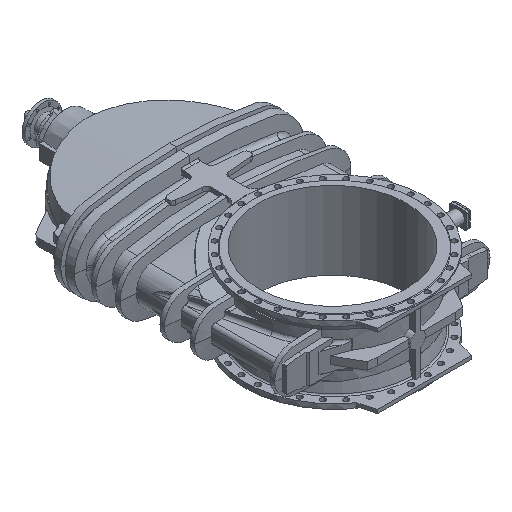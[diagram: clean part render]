
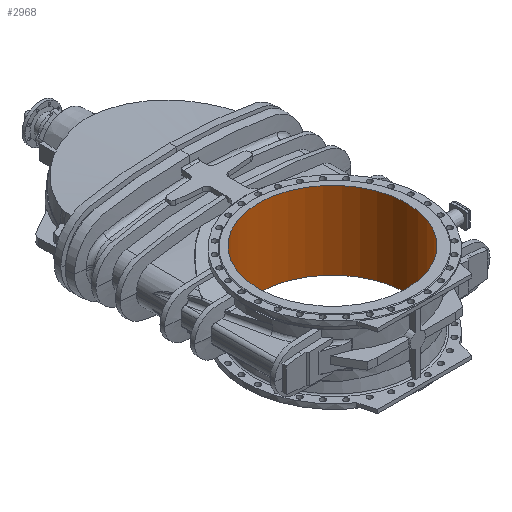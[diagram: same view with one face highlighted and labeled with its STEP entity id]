
A CAD part, isometric view. The second image highlights one B-rep face of the part: STEP entity #2968.
In plain terms, the highlighted cylindrical face has radius 600 mm (diameter 1200 mm), a full revolution.
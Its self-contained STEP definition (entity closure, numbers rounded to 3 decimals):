
#1753 = EDGE_LOOP ( 'NONE', ( #39062 ) ) ;
#2968 = ADVANCED_FACE ( 'NONE', ( #61825, #53020 ), #37642, .F. ) ;
#4281 = DIRECTION ( 'NONE',  ( 1., 0., 0. ) ) ;
#11703 = EDGE_CURVE ( 'NONE', #21066, #21066, #55581, .T. ) ;
#15103 = DIRECTION ( 'NONE',  ( 1., 0., 0. ) ) ;
#17218 = VERTEX_POINT ( 'NONE', #40798 ) ;
#17710 = DIRECTION ( 'NONE',  ( 0., 0., -1. ) ) ;
#18863 = ORIENTED_EDGE ( 'NONE', *, *, #60581, .T. ) ;
#21066 = VERTEX_POINT ( 'NONE', #21384 ) ;
#21384 = CARTESIAN_POINT ( 'NONE',  ( -600., 0., -315. ) ) ;
#25122 = CIRCLE ( 'NONE', #53269, 600. ) ;
#29764 = EDGE_LOOP ( 'NONE', ( #18863 ) ) ;
#34609 = DIRECTION ( 'NONE',  ( 0., 0., 1. ) ) ;
#37642 = CYLINDRICAL_SURFACE ( 'NONE', #47142, 600. ) ;
#39062 = ORIENTED_EDGE ( 'NONE', *, *, #11703, .T. ) ;
#40798 = CARTESIAN_POINT ( 'NONE',  ( 600., 0., 315. ) ) ;
#41395 = AXIS2_PLACEMENT_3D ( 'NONE', #41630, #17710, #56081 ) ;
#41630 = CARTESIAN_POINT ( 'NONE',  ( 0., 0., -315. ) ) ;
#44651 = CARTESIAN_POINT ( 'NONE',  ( 0., 0., 315. ) ) ;
#47142 = AXIS2_PLACEMENT_3D ( 'NONE', #56800, #47375, #4281 ) ;
#47375 = DIRECTION ( 'NONE',  ( 0., 0., 1. ) ) ;
#53020 = FACE_OUTER_BOUND ( 'NONE', #29764, .T. ) ;
#53269 = AXIS2_PLACEMENT_3D ( 'NONE', #44651, #34609, #15103 ) ;
#55581 = CIRCLE ( 'NONE', #41395, 600. ) ;
#56081 = DIRECTION ( 'NONE',  ( -1., 0., 0. ) ) ;
#56800 = CARTESIAN_POINT ( 'NONE',  ( 0., 0., -745.847 ) ) ;
#60581 = EDGE_CURVE ( 'NONE', #17218, #17218, #25122, .T. ) ;
#61825 = FACE_OUTER_BOUND ( 'NONE', #1753, .T. ) ;
